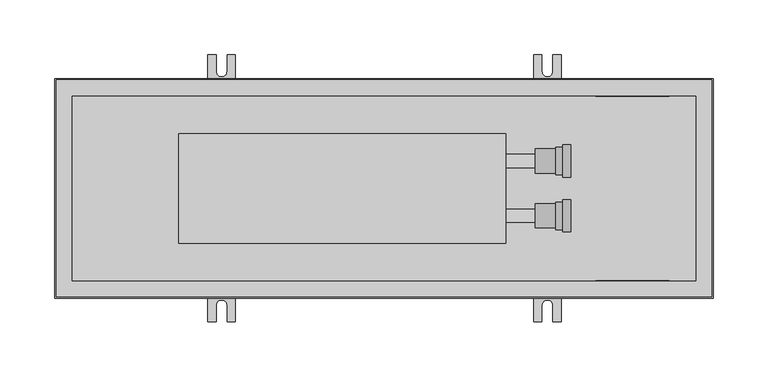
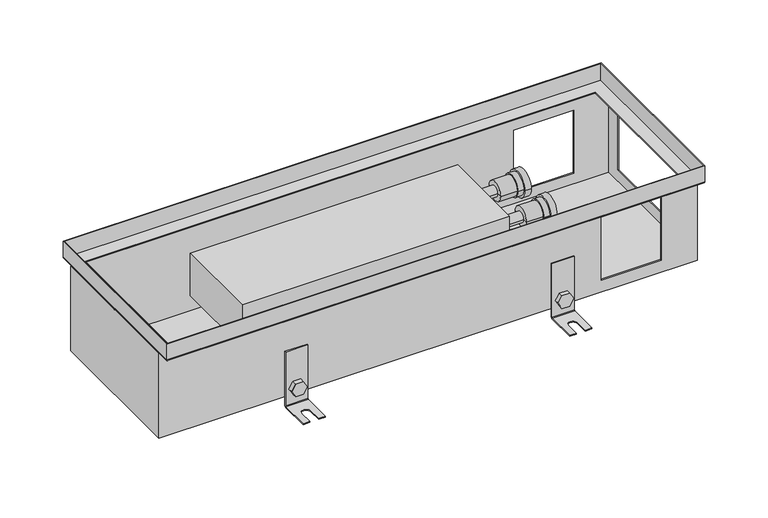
"""IFC4 building model written with IfcOpenShell, lengths in millimetres: proxy geometry, TECHNO_Конвектор встраиваемый_Usual_KVZ-200_85-105-120 : KVZ 200-120."""

from ifc_helpers import new_model, si_unit, point, frame, frame_2d, origin, place, context, project, spatial, polyline, circle_curve, ellipse_curve, trimmed, segment, composite_curve, outline, extrude, faceted_brep, source, transform, mapped, element, save
from ifc_brep_helpers import plane_surface, cylinder_surface, revolved_surface, advanced_brep


def mechanical_equipment_2bb92c4f(model_context):
    return source(origin(), model_context, "Body", "SolidModel", [
        extrude(outline(composite_curve([segment(trimmed(circle_curve(frame_2d((-110.5, 449.0)), 7.5), [point((-110.5, 441.5))], [point((-110.5, 456.5))], False, "CARTESIAN"), True, "CONTINUOUS"), segment(trimmed(circle_curve(frame_2d((-110.5, 449.0)), 7.5), [point((-110.5, 456.5))], [point((-110.5, 441.5))], False, "CARTESIAN"), True, "CONTINUOUS")], self_intersect=False)), frame((0.0, 85.2, 0.0), z_axis=(0.0, 1.0, 0.0), x_axis=(0.0, 0.0, 1.0)), (0.0, 0.0, 1.0), 1.5),
        extrude(outline(polyline([(-110.5, 440.339746), (-118.0, 444.669873), (-118.0, 453.330127), (-110.5, 457.660254), (-103.0, 453.330127), (-103.0, 444.669873), (-110.5, 440.339746)])), frame((0.0, 87.9, 0.0), z_axis=(0.0, 1.0, 0.0), x_axis=(0.0, 0.0, 1.0)), (0.0, 0.0, 1.0), 5.1),
        advanced_brep(
        [(461.5, 87.9, -65.5), (461.5, 86.7, -65.5), (461.5, 86.7, -128.5), (461.5, 88.7, -130.5), (461.5, 121.7, -130.5), (461.5, 121.7, -129.3), (461.5, 88.7, -129.3), (461.5, 87.9, -128.5), (436.5, 87.9, -65.5), (436.5, 87.9, -128.5), (436.5, 88.7, -129.3), (436.5, 121.7, -129.3), (436.5, 121.7, -130.5), (436.5, 88.7, -130.5), (436.5, 86.7, -128.5), (436.5, 86.7, -65.5), (454.0, 121.7, -129.3), (454.0, 106.7, -129.3), (444.0, 106.7, -129.3), (444.0, 121.7, -129.3), (444.0, 121.7, -130.5), (454.0, 121.7, -130.5), (444.0, 106.7, -130.5), (454.0, 106.7, -130.5)],
        [
            (0, 1),
            (1, 2),
            (2, 3, circle_curve(frame((461.5, 88.7, -128.5), z_axis=(1.0, 0.0, 0.0), x_axis=(0.0, 1.0, 0.0)), 2.0)),
            (3, 4),
            (4, 5),
            (5, 6),
            (6, 7, circle_curve(frame((461.5, 88.7, -128.5), z_axis=(-1.0, 0.0, 0.0), x_axis=(0.0, 1.0, 0.0)), 0.8)),
            (7, 0),
            (8, 9),
            (9, 10, circle_curve(frame((436.5, 88.7, -128.5), z_axis=(1.0, 0.0, 0.0), x_axis=(0.0, 1.0, 0.0)), 0.8)),
            (10, 11),
            (11, 12),
            (12, 13),
            (13, 14, circle_curve(frame((436.5, 88.7, -128.5), z_axis=(-1.0, 0.0, 0.0), x_axis=(0.0, 1.0, 0.0)), 2.0)),
            (14, 15),
            (15, 8),
            (7, 9),
            (8, 0),
            (6, 10),
            (5, 16),
            (16, 17),
            (17, 18, circle_curve(frame((449.0, 106.7, -129.3), z_axis=(0.0, 0.0, -1.0), x_axis=(1.0, 0.0, 0.0)), 5.0)),
            (18, 19),
            (19, 11),
            (19, 20),
            (20, 12),
            (4, 21),
            (21, 16),
            (3, 13),
            (20, 22),
            (22, 23, circle_curve(frame((449.0, 106.7, -130.5), z_axis=(0.0, 0.0, 1.0), x_axis=(1.0, 0.0, 0.0)), 5.0)),
            (23, 21),
            (2, 14),
            (1, 15),
            (18, 22),
            (23, 17),
        ],
        [
            plane_surface(frame((461.5, 87.9, -65.5), z_axis=(1.0, 0.0, 0.0), x_axis=(0.0, 0.0, -1.0))),
            plane_surface(frame((436.5, 87.9, -65.5), z_axis=(-1.0, 0.0, 0.0), x_axis=(0.0, 0.0, 1.0))),
            plane_surface(frame((461.5, 87.9, -65.5), z_axis=(0.0, 1.0, 0.0), x_axis=(-1.0, 0.0, 0.0))),
            revolved_surface(polyline([(436.5, 89.5, -128.5), (461.5, 89.5, -128.5)]), (436.5, 88.7, -128.5), (-1.0, 0.0, 0.0)),
            plane_surface(frame((461.5, 88.7, -129.3), z_axis=(0.0, 0.0, 1.0), x_axis=(-1.0, 0.0, 0.0))),
            plane_surface(frame((461.5, 121.7, -129.3), z_axis=(0.0, 1.0, 0.0), x_axis=(-1.0, 0.0, 0.0))),
            plane_surface(frame((461.5, 121.7, -130.5), z_axis=(0.0, 0.0, -1.0), x_axis=(-1.0, 0.0, 0.0))),
            cylinder_surface(frame((436.5, 88.7, -128.5), z_axis=(1.0, 0.0, 0.0), x_axis=(0.0, 1.0, 0.0)), 2.0),
            plane_surface(frame((461.5, 86.7, -128.5), z_axis=(0.0, -1.0, 0.0), x_axis=(-1.0, 0.0, 0.0))),
            plane_surface(frame((461.5, 86.7, -65.5), z_axis=(0.0, 0.0, 1.0), x_axis=(-1.0, 0.0, 0.0))),
            plane_surface(frame((444.0, 106.7, -129.3), z_axis=(1.0, 0.0, 0.0), x_axis=(0.0, 0.0, -1.0))),
            plane_surface(frame((454.0, 121.7, -129.3), z_axis=(-1.0, 0.0, 0.0), x_axis=(0.0, 0.0, -1.0))),
            revolved_surface(polyline([(454.0, 106.7, -129.3), (454.0, 106.7, -130.5)]), (449.0, 106.7, -130.5), (0.0, 0.0, 1.0)),
        ],
        [
            (0, [[1, 2, 3, 4, 5, 6, 7, 8]]),
            (1, [[9, 10, 11, 12, 13, 14, 15, 16]]),
            (2, [[17, -9, 18, -8]]),
            (3, [[19, -10, -17, -7]]),
            (4, [[20, 21, 22, 23, 24, -11, -19, -6]]),
            (5, [[-24, 25, 26, -12]]),
            (5, [[27, 28, -20, -5]]),
            (6, [[29, -13, -26, 30, 31, 32, -27, -4]]),
            (7, [[33, -14, -29, -3]]),
            (8, [[34, -15, -33, -2]]),
            (9, [[-18, -16, -34, -1]]),
            (10, [[-30, -25, -23, 35]]),
            (11, [[-21, -28, -32, 36]]),
            (12, [[-22, -36, -31, -35]]),
        ],
    ),
        extrude(outline(composite_curve([segment(trimmed(circle_curve(frame_2d((-110.5, 449.0)), 7.5), [point((-110.5, 441.5))], [point((-110.5, 456.5))], False, "CARTESIAN"), True, "CONTINUOUS"), segment(trimmed(circle_curve(frame_2d((-110.5, 449.0)), 7.5), [point((-110.5, 456.5))], [point((-110.5, 441.5))], False, "CARTESIAN"), True, "CONTINUOUS")], self_intersect=False)), frame((0.0, -86.7, 0.0), z_axis=(0.0, 1.0, 0.0), x_axis=(0.0, 0.0, 1.0)), (0.0, 0.0, 1.0), 1.5),
        extrude(outline(polyline([(-110.5, 440.339746), (-118.0, 444.669873), (-118.0, 453.330127), (-110.5, 457.660254), (-103.0, 453.330127), (-103.0, 444.669873), (-110.5, 440.339746)])), frame((0.0, -93.0, 0.0), z_axis=(0.0, 1.0, 0.0), x_axis=(0.0, 0.0, 1.0)), (0.0, 0.0, 1.0), 5.1),
        advanced_brep(
        [(461.5, -87.9, -65.5), (461.5, -87.9, -128.5), (461.5, -88.7, -129.3), (461.5, -121.7, -129.3), (461.5, -121.7, -130.5), (461.5, -88.7, -130.5), (461.5, -86.7, -128.5), (461.5, -86.7, -65.5), (436.5, -87.9, -65.5), (436.5, -86.7, -65.5), (436.5, -86.7, -128.5), (436.5, -88.7, -130.5), (436.5, -121.7, -130.5), (436.5, -121.7, -129.3), (436.5, -88.7, -129.3), (436.5, -87.9, -128.5), (444.0, -121.7, -129.3), (444.0, -106.7, -129.3), (454.0, -106.7, -129.3), (454.0, -121.7, -129.3), (454.0, -121.7, -130.5), (444.0, -121.7, -130.5), (454.0, -106.7, -130.5), (444.0, -106.7, -130.5)],
        [
            (0, 1),
            (1, 2, circle_curve(frame((461.5, -88.7, -128.5), z_axis=(-1.0, 0.0, 0.0), x_axis=(0.0, -1.0, 0.0)), 0.8)),
            (2, 3),
            (3, 4),
            (4, 5),
            (5, 6, circle_curve(frame((461.5, -88.7, -128.5), z_axis=(1.0, 0.0, 0.0), x_axis=(0.0, -1.0, 0.0)), 2.0)),
            (6, 7),
            (7, 0),
            (8, 9),
            (9, 10),
            (10, 11, circle_curve(frame((436.5, -88.7, -128.5), z_axis=(-1.0, 0.0, 0.0), x_axis=(0.0, -1.0, 0.0)), 2.0)),
            (11, 12),
            (12, 13),
            (13, 14),
            (14, 15, circle_curve(frame((436.5, -88.7, -128.5), z_axis=(1.0, 0.0, 0.0), x_axis=(0.0, -1.0, 0.0)), 0.8)),
            (15, 8),
            (0, 8),
            (15, 1),
            (14, 2),
            (13, 16),
            (16, 17),
            (17, 18, circle_curve(frame((449.0, -106.7, -129.3), z_axis=(0.0, 0.0, -1.0), x_axis=(1.0, 0.0, 0.0)), 5.0)),
            (18, 19),
            (19, 3),
            (19, 20),
            (20, 4),
            (12, 21),
            (21, 16),
            (20, 22),
            (22, 23, circle_curve(frame((449.0, -106.7, -130.5), z_axis=(0.0, 0.0, 1.0), x_axis=(1.0, 0.0, 0.0)), 5.0)),
            (23, 21),
            (11, 5),
            (10, 6),
            (9, 7),
            (23, 17),
            (18, 22),
        ],
        [
            plane_surface(frame((461.5, -87.9, -65.5), z_axis=(1.0, 0.0, 0.0), x_axis=(0.0, 0.0, -1.0))),
            plane_surface(frame((436.5, -87.9, -65.5), z_axis=(-1.0, 0.0, 0.0), x_axis=(0.0, 0.0, 1.0))),
            plane_surface(frame((461.5, -87.9, -65.5), z_axis=(0.0, -1.0, 0.0), x_axis=(-1.0, 0.0, 0.0))),
            revolved_surface(polyline([(436.5, -89.5, -128.5), (461.5, -89.5, -128.5)]), (436.5, -88.7, -128.5), (-1.0, 0.0, 0.0)),
            plane_surface(frame((461.5, -88.7, -129.3), z_axis=(0.0, 0.0, 1.0), x_axis=(-1.0, 0.0, 0.0))),
            plane_surface(frame((461.5, -121.7, -129.3), z_axis=(0.0, -1.0, 0.0), x_axis=(-1.0, 0.0, 0.0))),
            plane_surface(frame((461.5, -121.7, -130.5), z_axis=(0.0, 0.0, -1.0), x_axis=(-1.0, 0.0, 0.0))),
            cylinder_surface(frame((436.5, -88.7, -128.5), z_axis=(1.0, 0.0, 0.0), x_axis=(0.0, -1.0, 0.0)), 2.0),
            plane_surface(frame((461.5, -86.7, -128.5), z_axis=(0.0, 1.0, 0.0), x_axis=(-1.0, 0.0, 0.0))),
            plane_surface(frame((461.5, -86.7, -65.5), z_axis=(0.0, 0.0, 1.0), x_axis=(-1.0, 0.0, 0.0))),
            plane_surface(frame((444.0, -106.7, -129.3), z_axis=(1.0, 0.0, 0.0), x_axis=(0.0, 0.0, -1.0))),
            plane_surface(frame((454.0, -121.7, -129.3), z_axis=(-1.0, 0.0, 0.0), x_axis=(0.0, 0.0, -1.0))),
            revolved_surface(polyline([(454.0, -106.7, -129.3), (454.0, -106.7, -130.5)]), (449.0, -106.7, -130.5), (0.0, 0.0, 1.0)),
        ],
        [
            (0, [[1, 2, 3, 4, 5, 6, 7, 8]]),
            (1, [[9, 10, 11, 12, 13, 14, 15, 16]]),
            (2, [[-1, 17, -16, 18]]),
            (3, [[-2, -18, -15, 19]]),
            (4, [[-3, -19, -14, 20, 21, 22, 23, 24]]),
            (5, [[-4, -24, 25, 26]]),
            (5, [[-13, 27, 28, -20]]),
            (6, [[-5, -26, 29, 30, 31, -27, -12, 32]]),
            (7, [[-6, -32, -11, 33]]),
            (8, [[-7, -33, -10, 34]]),
            (9, [[-8, -34, -9, -17]]),
            (10, [[35, -21, -28, -31]]),
            (11, [[36, -29, -25, -23]]),
            (12, [[-35, -30, -36, -22]]),
        ],
    ),
        extrude(outline(composite_curve([segment(trimmed(circle_curve(frame_2d((-110.5, 152.0)), 7.5), [point((-110.5, 144.5))], [point((-110.5, 159.5))], False, "CARTESIAN"), True, "CONTINUOUS"), segment(trimmed(circle_curve(frame_2d((-110.5, 152.0)), 7.5), [point((-110.5, 159.5))], [point((-110.5, 144.5))], False, "CARTESIAN"), True, "CONTINUOUS")], self_intersect=False)), frame((0.0, 85.2, 0.0), z_axis=(0.0, 1.0, 0.0), x_axis=(0.0, 0.0, 1.0)), (0.0, 0.0, 1.0), 1.5),
        extrude(outline(polyline([(-110.5, 143.339746), (-118.0, 147.669873), (-118.0, 156.330127), (-110.5, 160.660254), (-103.0, 156.330127), (-103.0, 147.669873), (-110.5, 143.339746)])), frame((0.0, 87.9, 0.0), z_axis=(0.0, 1.0, 0.0), x_axis=(0.0, 0.0, 1.0)), (0.0, 0.0, 1.0), 5.1),
        advanced_brep(
        [(164.5, 87.9, -65.5), (164.5, 86.7, -65.5), (164.5, 86.7, -128.5), (164.5, 88.7, -130.5), (164.5, 121.7, -130.5), (164.5, 121.7, -129.3), (164.5, 88.7, -129.3), (164.5, 87.9, -128.5), (139.5, 87.9, -65.5), (139.5, 87.9, -128.5), (139.5, 88.7, -129.3), (139.5, 121.7, -129.3), (139.5, 121.7, -130.5), (139.5, 88.7, -130.5), (139.5, 86.7, -128.5), (139.5, 86.7, -65.5), (157.0, 121.7, -129.3), (157.0, 106.7, -129.3), (147.0, 106.7, -129.3), (147.0, 121.7, -129.3), (147.0, 121.7, -130.5), (157.0, 121.7, -130.5), (147.0, 106.7, -130.5), (157.0, 106.7, -130.5)],
        [
            (0, 1),
            (1, 2),
            (2, 3, circle_curve(frame((164.5, 88.7, -128.5), z_axis=(1.0, 0.0, 0.0), x_axis=(0.0, 1.0, 0.0)), 2.0)),
            (3, 4),
            (4, 5),
            (5, 6),
            (6, 7, circle_curve(frame((164.5, 88.7, -128.5), z_axis=(-1.0, 0.0, 0.0), x_axis=(0.0, 1.0, 0.0)), 0.8)),
            (7, 0),
            (8, 9),
            (9, 10, circle_curve(frame((139.5, 88.7, -128.5), z_axis=(1.0, 0.0, 0.0), x_axis=(0.0, 1.0, 0.0)), 0.8)),
            (10, 11),
            (11, 12),
            (12, 13),
            (13, 14, circle_curve(frame((139.5, 88.7, -128.5), z_axis=(-1.0, 0.0, 0.0), x_axis=(0.0, 1.0, 0.0)), 2.0)),
            (14, 15),
            (15, 8),
            (7, 9),
            (8, 0),
            (6, 10),
            (5, 16),
            (16, 17),
            (17, 18, circle_curve(frame((152.0, 106.7, -129.3), z_axis=(0.0, 0.0, -1.0), x_axis=(1.0, 0.0, 0.0)), 5.0)),
            (18, 19),
            (19, 11),
            (19, 20),
            (20, 12),
            (4, 21),
            (21, 16),
            (3, 13),
            (20, 22),
            (22, 23, circle_curve(frame((152.0, 106.7, -130.5), z_axis=(0.0, 0.0, 1.0), x_axis=(1.0, 0.0, 0.0)), 5.0)),
            (23, 21),
            (2, 14),
            (1, 15),
            (18, 22),
            (23, 17),
        ],
        [
            plane_surface(frame((164.5, 87.9, -65.5), z_axis=(1.0, 0.0, 0.0), x_axis=(0.0, 0.0, -1.0))),
            plane_surface(frame((139.5, 87.9, -65.5), z_axis=(-1.0, 0.0, 0.0), x_axis=(0.0, 0.0, 1.0))),
            plane_surface(frame((164.5, 87.9, -65.5), z_axis=(0.0, 1.0, 0.0), x_axis=(-1.0, 0.0, 0.0))),
            revolved_surface(polyline([(139.5, 89.5, -128.5), (164.5, 89.5, -128.5)]), (139.5, 88.7, -128.5), (-1.0, 0.0, 0.0)),
            plane_surface(frame((164.5, 88.7, -129.3), z_axis=(0.0, 0.0, 1.0), x_axis=(-1.0, 0.0, 0.0))),
            plane_surface(frame((164.5, 121.7, -129.3), z_axis=(0.0, 1.0, 0.0), x_axis=(-1.0, 0.0, 0.0))),
            plane_surface(frame((164.5, 121.7, -130.5), z_axis=(0.0, 0.0, -1.0), x_axis=(-1.0, 0.0, 0.0))),
            cylinder_surface(frame((139.5, 88.7, -128.5), z_axis=(1.0, 0.0, 0.0), x_axis=(0.0, 1.0, 0.0)), 2.0),
            plane_surface(frame((164.5, 86.7, -128.5), z_axis=(0.0, -1.0, 0.0), x_axis=(-1.0, 0.0, 0.0))),
            plane_surface(frame((164.5, 86.7, -65.5), z_axis=(0.0, 0.0, 1.0), x_axis=(-1.0, 0.0, 0.0))),
            plane_surface(frame((147.0, 106.7, -129.3), z_axis=(1.0, 0.0, 0.0), x_axis=(0.0, 0.0, -1.0))),
            plane_surface(frame((157.0, 121.7, -129.3), z_axis=(-1.0, 0.0, 0.0), x_axis=(0.0, 0.0, -1.0))),
            revolved_surface(polyline([(157.0, 106.7, -129.3), (157.0, 106.7, -130.5)]), (152.0, 106.7, -130.5), (0.0, 0.0, 1.0)),
        ],
        [
            (0, [[1, 2, 3, 4, 5, 6, 7, 8]]),
            (1, [[9, 10, 11, 12, 13, 14, 15, 16]]),
            (2, [[17, -9, 18, -8]]),
            (3, [[19, -10, -17, -7]]),
            (4, [[20, 21, 22, 23, 24, -11, -19, -6]]),
            (5, [[-24, 25, 26, -12]]),
            (5, [[27, 28, -20, -5]]),
            (6, [[29, -13, -26, 30, 31, 32, -27, -4]]),
            (7, [[33, -14, -29, -3]]),
            (8, [[34, -15, -33, -2]]),
            (9, [[-18, -16, -34, -1]]),
            (10, [[-30, -25, -23, 35]]),
            (11, [[-21, -28, -32, 36]]),
            (12, [[-22, -36, -31, -35]]),
        ],
    ),
        extrude(outline(composite_curve([segment(trimmed(circle_curve(frame_2d((-110.5, 152.0)), 7.5), [point((-110.5, 144.5))], [point((-110.5, 159.5))], False, "CARTESIAN"), True, "CONTINUOUS"), segment(trimmed(circle_curve(frame_2d((-110.5, 152.0)), 7.5), [point((-110.5, 159.5))], [point((-110.5, 144.5))], False, "CARTESIAN"), True, "CONTINUOUS")], self_intersect=False)), frame((0.0, -86.7, 0.0), z_axis=(0.0, 1.0, 0.0), x_axis=(0.0, 0.0, 1.0)), (0.0, 0.0, 1.0), 1.5),
        extrude(outline(polyline([(-110.5, 143.339746), (-118.0, 147.669873), (-118.0, 156.330127), (-110.5, 160.660254), (-103.0, 156.330127), (-103.0, 147.669873), (-110.5, 143.339746)])), frame((0.0, -93.0, 0.0), z_axis=(0.0, 1.0, 0.0), x_axis=(0.0, 0.0, 1.0)), (0.0, 0.0, 1.0), 5.1),
        advanced_brep(
        [(164.5, -87.9, -65.5), (164.5, -87.9, -128.5), (164.5, -88.7, -129.3), (164.5, -121.7, -129.3), (164.5, -121.7, -130.5), (164.5, -88.7, -130.5), (164.5, -86.7, -128.5), (164.5, -86.7, -65.5), (139.5, -87.9, -65.5), (139.5, -86.7, -65.5), (139.5, -86.7, -128.5), (139.5, -88.7, -130.5), (139.5, -121.7, -130.5), (139.5, -121.7, -129.3), (139.5, -88.7, -129.3), (139.5, -87.9, -128.5), (147.0, -121.7, -129.3), (147.0, -106.7, -129.3), (157.0, -106.7, -129.3), (157.0, -121.7, -129.3), (157.0, -121.7, -130.5), (147.0, -121.7, -130.5), (157.0, -106.7, -130.5), (147.0, -106.7, -130.5)],
        [
            (0, 1),
            (1, 2, circle_curve(frame((164.5, -88.7, -128.5), z_axis=(-1.0, 0.0, 0.0), x_axis=(0.0, -1.0, 0.0)), 0.8)),
            (2, 3),
            (3, 4),
            (4, 5),
            (5, 6, circle_curve(frame((164.5, -88.7, -128.5), z_axis=(1.0, 0.0, 0.0), x_axis=(0.0, -1.0, 0.0)), 2.0)),
            (6, 7),
            (7, 0),
            (8, 9),
            (9, 10),
            (10, 11, circle_curve(frame((139.5, -88.7, -128.5), z_axis=(-1.0, 0.0, 0.0), x_axis=(0.0, -1.0, 0.0)), 2.0)),
            (11, 12),
            (12, 13),
            (13, 14),
            (14, 15, circle_curve(frame((139.5, -88.7, -128.5), z_axis=(1.0, 0.0, 0.0), x_axis=(0.0, -1.0, 0.0)), 0.8)),
            (15, 8),
            (0, 8),
            (15, 1),
            (14, 2),
            (13, 16),
            (16, 17),
            (17, 18, circle_curve(frame((152.0, -106.7, -129.3), z_axis=(0.0, 0.0, -1.0), x_axis=(1.0, 0.0, 0.0)), 5.0)),
            (18, 19),
            (19, 3),
            (19, 20),
            (20, 4),
            (12, 21),
            (21, 16),
            (20, 22),
            (22, 23, circle_curve(frame((152.0, -106.7, -130.5), z_axis=(0.0, 0.0, 1.0), x_axis=(1.0, 0.0, 0.0)), 5.0)),
            (23, 21),
            (11, 5),
            (10, 6),
            (9, 7),
            (23, 17),
            (18, 22),
        ],
        [
            plane_surface(frame((164.5, -87.9, -65.5), z_axis=(1.0, 0.0, 0.0), x_axis=(0.0, 0.0, -1.0))),
            plane_surface(frame((139.5, -87.9, -65.5), z_axis=(-1.0, 0.0, 0.0), x_axis=(0.0, 0.0, 1.0))),
            plane_surface(frame((164.5, -87.9, -65.5), z_axis=(0.0, -1.0, 0.0), x_axis=(-1.0, 0.0, 0.0))),
            revolved_surface(polyline([(139.5, -89.5, -128.5), (164.5, -89.5, -128.5)]), (139.5, -88.7, -128.5), (-1.0, 0.0, 0.0)),
            plane_surface(frame((164.5, -88.7, -129.3), z_axis=(0.0, 0.0, 1.0), x_axis=(-1.0, 0.0, 0.0))),
            plane_surface(frame((164.5, -121.7, -129.3), z_axis=(0.0, -1.0, 0.0), x_axis=(-1.0, 0.0, 0.0))),
            plane_surface(frame((164.5, -121.7, -130.5), z_axis=(0.0, 0.0, -1.0), x_axis=(-1.0, 0.0, 0.0))),
            cylinder_surface(frame((139.5, -88.7, -128.5), z_axis=(1.0, 0.0, 0.0), x_axis=(0.0, -1.0, 0.0)), 2.0),
            plane_surface(frame((164.5, -86.7, -128.5), z_axis=(0.0, 1.0, 0.0), x_axis=(-1.0, 0.0, 0.0))),
            plane_surface(frame((164.5, -86.7, -65.5), z_axis=(0.0, 0.0, 1.0), x_axis=(-1.0, 0.0, 0.0))),
            plane_surface(frame((147.0, -106.7, -129.3), z_axis=(1.0, 0.0, 0.0), x_axis=(0.0, 0.0, -1.0))),
            plane_surface(frame((157.0, -121.7, -129.3), z_axis=(-1.0, 0.0, 0.0), x_axis=(0.0, 0.0, -1.0))),
            revolved_surface(polyline([(157.0, -106.7, -129.3), (157.0, -106.7, -130.5)]), (152.0, -106.7, -130.5), (0.0, 0.0, 1.0)),
        ],
        [
            (0, [[1, 2, 3, 4, 5, 6, 7, 8]]),
            (1, [[9, 10, 11, 12, 13, 14, 15, 16]]),
            (2, [[-1, 17, -16, 18]]),
            (3, [[-2, -18, -15, 19]]),
            (4, [[-3, -19, -14, 20, 21, 22, 23, 24]]),
            (5, [[-4, -24, 25, 26]]),
            (5, [[-13, 27, 28, -20]]),
            (6, [[-5, -26, 29, 30, 31, -27, -12, 32]]),
            (7, [[-6, -32, -11, 33]]),
            (8, [[-7, -33, -10, 34]]),
            (9, [[-8, -34, -9, -17]]),
            (10, [[35, -21, -28, -31]]),
            (11, [[36, -29, -25, -23]]),
            (12, [[-35, -30, -36, -22]]),
        ],
    ),
        extrude(outline(polyline([(411.0, 50.0), (411.0, -50.0), (113.0, -50.0), (113.0, 50.0), (411.0, 50.0)])), frame((0.0, 0.0, -73.5), z_axis=(0.0, 0.0, 1.0), x_axis=(1.0, 0.0, 0.0)), (0.0, 0.0, 1.0), 50.0),
        advanced_brep(
        [(438.0, 25.0, -48.5), (438.0, 36.0, -48.5), (438.0, 14.0, -48.5), (456.5, 36.0, -48.5), (456.5, 14.0, -48.5), (456.5, 37.5, -48.5), (456.5, 12.5, -48.5), (463.0, 37.5, -48.5), (463.0, 12.5, -48.5), (463.0, 39.7, -48.5), (463.0, 10.3, -48.5), (470.0, 39.7, -48.5), (470.0, 10.3, -48.5), (470.0, 25.0, -48.5)],
        [
            (0, 1),
            (1, 2, circle_curve(frame((438.0, 25.0, -48.5), z_axis=(-1.0, 0.0, 0.0), x_axis=(0.0, 1.0, 0.0)), 11.0)),
            (2, 0),
            (2, 1, circle_curve(frame((438.0, 25.0, -48.5), z_axis=(-1.0, 0.0, 0.0), x_axis=(0.0, 1.0, 0.0)), 11.0)),
            (1, 3),
            (3, 4, circle_curve(frame((456.5, 25.0, -48.5), z_axis=(-1.0, 0.0, 0.0), x_axis=(0.0, 1.0, 0.0)), 11.0)),
            (4, 2),
            (4, 3, circle_curve(frame((456.5, 25.0, -48.5), z_axis=(-1.0, 0.0, 0.0), x_axis=(0.0, 1.0, 0.0)), 11.0)),
            (3, 5),
            (5, 6, circle_curve(frame((456.5, 25.0, -48.5), z_axis=(-1.0, 0.0, 0.0), x_axis=(0.0, 1.0, 0.0)), 12.5)),
            (6, 4),
            (6, 5, circle_curve(frame((456.5, 25.0, -48.5), z_axis=(-1.0, 0.0, 0.0), x_axis=(0.0, 1.0, 0.0)), 12.5)),
            (5, 7),
            (7, 8, circle_curve(frame((463.0, 25.0, -48.5), z_axis=(-1.0, 0.0, 0.0), x_axis=(0.0, 1.0, 0.0)), 12.5)),
            (8, 6),
            (8, 7, circle_curve(frame((463.0, 25.0, -48.5), z_axis=(-1.0, 0.0, 0.0), x_axis=(0.0, 1.0, 0.0)), 12.5)),
            (7, 9),
            (9, 10, circle_curve(frame((463.0, 25.0, -48.5), z_axis=(-1.0, 0.0, 0.0), x_axis=(0.0, 1.0, 0.0)), 14.7)),
            (10, 8),
            (10, 9, circle_curve(frame((463.0, 25.0, -48.5), z_axis=(-1.0, 0.0, 0.0), x_axis=(0.0, 1.0, 0.0)), 14.7)),
            (9, 11),
            (11, 12, circle_curve(frame((470.0, 25.0, -48.5), z_axis=(-1.0, 0.0, 0.0), x_axis=(0.0, 1.0, 0.0)), 14.7)),
            (12, 10),
            (12, 11, circle_curve(frame((470.0, 25.0, -48.5), z_axis=(-1.0, 0.0, 0.0), x_axis=(0.0, 1.0, 0.0)), 14.7)),
            (11, 13),
            (13, 12),
        ],
        [
            plane_surface(frame((438.0, 25.0, -48.5), z_axis=(-1.0, 0.0, 0.0), x_axis=(0.0, 1.0, 0.0))),
            cylinder_surface(frame((492.0, 25.0, -48.5), z_axis=(-1.0, 0.0, 0.0), x_axis=(0.0, 1.0, 0.0)), 11.0),
            plane_surface(frame((456.5, 25.0, -48.5), z_axis=(-1.0, 0.0, 0.0), x_axis=(0.0, 1.0, 0.0))),
            cylinder_surface(frame((492.0, 25.0, -48.5), z_axis=(-1.0, 0.0, 0.0), x_axis=(0.0, 1.0, 0.0)), 12.5),
            plane_surface(frame((463.0, 25.0, -48.5), z_axis=(-1.0, 0.0, 0.0), x_axis=(0.0, 1.0, 0.0))),
            cylinder_surface(frame((492.0, 25.0, -48.5), z_axis=(-1.0, 0.0, 0.0), x_axis=(0.0, 1.0, 0.0)), 14.7),
            plane_surface(frame((470.0, 25.0, -48.5), z_axis=(1.0, 0.0, 0.0), x_axis=(0.0, 1.0, 0.0))),
        ],
        [
            (0, [[1, 2, 3]]),
            (0, [[-3, 4, -1]]),
            (1, [[-2, 5, 6, 7]]),
            (1, [[-4, -7, 8, -5]]),
            (2, [[-6, 9, 10, 11]]),
            (2, [[-8, -11, 12, -9]]),
            (3, [[-10, 13, 14, 15]]),
            (3, [[-12, -15, 16, -13]]),
            (4, [[-14, 17, 18, 19]]),
            (4, [[-16, -19, 20, -17]]),
            (5, [[-18, 21, 22, 23]]),
            (5, [[-20, -23, 24, -21]]),
            (6, [[-22, 25, 26]]),
            (6, [[-24, -26, -25]]),
        ],
    ),
        advanced_brep(
        [(438.0, -25.0, -48.5), (438.0, -14.0, -48.5), (438.0, -36.0, -48.5), (456.5, -14.0, -48.5), (456.5, -36.0, -48.5), (456.5, -12.5, -48.5), (456.5, -37.5, -48.5), (463.0, -12.5, -48.5), (463.0, -37.5, -48.5), (463.0, -10.3, -48.5), (463.0, -39.7, -48.5), (470.0, -10.3, -48.5), (470.0, -39.7, -48.5), (470.0, -25.0, -48.5)],
        [
            (0, 1),
            (1, 2, circle_curve(frame((438.0, -25.0, -48.5), z_axis=(-1.0, 0.0, 0.0), x_axis=(0.0, 1.0, 0.0)), 11.0)),
            (2, 0),
            (2, 1, circle_curve(frame((438.0, -25.0, -48.5), z_axis=(-1.0, 0.0, 0.0), x_axis=(0.0, 1.0, 0.0)), 11.0)),
            (1, 3),
            (3, 4, circle_curve(frame((456.5, -25.0, -48.5), z_axis=(-1.0, 0.0, 0.0), x_axis=(0.0, 1.0, 0.0)), 11.0)),
            (4, 2),
            (4, 3, circle_curve(frame((456.5, -25.0, -48.5), z_axis=(-1.0, 0.0, 0.0), x_axis=(0.0, 1.0, 0.0)), 11.0)),
            (3, 5),
            (5, 6, circle_curve(frame((456.5, -25.0, -48.5), z_axis=(-1.0, 0.0, 0.0), x_axis=(0.0, 1.0, 0.0)), 12.5)),
            (6, 4),
            (6, 5, circle_curve(frame((456.5, -25.0, -48.5), z_axis=(-1.0, 0.0, 0.0), x_axis=(0.0, 1.0, 0.0)), 12.5)),
            (5, 7),
            (7, 8, circle_curve(frame((463.0, -25.0, -48.5), z_axis=(-1.0, 0.0, 0.0), x_axis=(0.0, 1.0, 0.0)), 12.5)),
            (8, 6),
            (8, 7, circle_curve(frame((463.0, -25.0, -48.5), z_axis=(-1.0, 0.0, 0.0), x_axis=(0.0, 1.0, 0.0)), 12.5)),
            (7, 9),
            (9, 10, circle_curve(frame((463.0, -25.0, -48.5), z_axis=(-1.0, 0.0, 0.0), x_axis=(0.0, 1.0, 0.0)), 14.7)),
            (10, 8),
            (10, 9, circle_curve(frame((463.0, -25.0, -48.5), z_axis=(-1.0, 0.0, 0.0), x_axis=(0.0, 1.0, 0.0)), 14.7)),
            (9, 11),
            (11, 12, circle_curve(frame((470.0, -25.0, -48.5), z_axis=(-1.0, 0.0, 0.0), x_axis=(0.0, 1.0, 0.0)), 14.7)),
            (12, 10),
            (12, 11, circle_curve(frame((470.0, -25.0, -48.5), z_axis=(-1.0, 0.0, 0.0), x_axis=(0.0, 1.0, 0.0)), 14.7)),
            (11, 13),
            (13, 12),
        ],
        [
            plane_surface(frame((438.0, -25.0, -48.5), z_axis=(-1.0, 0.0, 0.0), x_axis=(0.0, 1.0, 0.0))),
            cylinder_surface(frame((492.0, -25.0, -48.5), z_axis=(-1.0, 0.0, 0.0), x_axis=(0.0, 1.0, 0.0)), 11.0),
            plane_surface(frame((456.5, -25.0, -48.5), z_axis=(-1.0, 0.0, 0.0), x_axis=(0.0, 1.0, 0.0))),
            cylinder_surface(frame((492.0, -25.0, -48.5), z_axis=(-1.0, 0.0, 0.0), x_axis=(0.0, 1.0, 0.0)), 12.5),
            plane_surface(frame((463.0, -25.0, -48.5), z_axis=(-1.0, 0.0, 0.0), x_axis=(0.0, 1.0, 0.0))),
            cylinder_surface(frame((492.0, -25.0, -48.5), z_axis=(-1.0, 0.0, 0.0), x_axis=(0.0, 1.0, 0.0)), 14.7),
            plane_surface(frame((470.0, -25.0, -48.5), z_axis=(1.0, 0.0, 0.0), x_axis=(0.0, 1.0, 0.0))),
        ],
        [
            (0, [[1, 2, 3]]),
            (0, [[-3, 4, -1]]),
            (1, [[-2, 5, 6, 7]]),
            (1, [[-4, -7, 8, -5]]),
            (2, [[-6, 9, 10, 11]]),
            (2, [[-8, -11, 12, -9]]),
            (3, [[-10, 13, 14, 15]]),
            (3, [[-12, -15, 16, -13]]),
            (4, [[-14, 17, 18, 19]]),
            (4, [[-16, -19, 20, -17]]),
            (5, [[-18, 21, 22, 23]]),
            (5, [[-20, -23, 24, -21]]),
            (6, [[-22, 25, 26]]),
            (6, [[-24, -26, -25]]),
        ],
    ),
        extrude(outline(composite_curve([segment(trimmed(circle_curve(frame_2d((25.0, -48.5)), 6.0), [point((19.0, -48.5))], [point((31.0, -48.5))], False, "CARTESIAN"), True, "CONTINUOUS"), segment(trimmed(circle_curve(frame_2d((25.0, -48.5)), 6.0), [point((31.0, -48.5))], [point((19.0, -48.5))], False, "CARTESIAN"), True, "CONTINUOUS")], self_intersect=False)), frame((411.0, 0.0, 0.0), z_axis=(1.0, 0.0, 0.0), x_axis=(0.0, 1.0, 0.0)), (0.0, 0.0, 1.0), 27.0),
        extrude(outline(composite_curve([segment(trimmed(circle_curve(frame_2d((-25.0, -48.5)), 6.0), [point((-31.0, -48.5))], [point((-19.0, -48.5))], False, "CARTESIAN"), True, "CONTINUOUS"), segment(trimmed(circle_curve(frame_2d((-25.0, -48.5)), 6.0), [point((-19.0, -48.5))], [point((-31.0, -48.5))], False, "CARTESIAN"), True, "CONTINUOUS")], self_intersect=False)), frame((411.0, 0.0, 0.0), z_axis=(1.0, 0.0, 0.0), x_axis=(0.0, 1.0, 0.0)), (0.0, 0.0, 1.0), 27.0),
        faceted_brep([(598.8, -84.0, -118.8), (598.8, 84.0, -118.8), (1.2, 84.0, -118.8), (1.2, -84.0, -118.8), (0.0, -85.2, -120.0), (0.0, 85.2, -120.0), (600.0, 85.2, -120.0), (600.0, -85.2, -120.0), (600.0, -85.2, -20.5), (0.0, -85.2, -20.5), (493.0, -85.2, -32.0), (560.0, -85.2, -32.0), (560.0, -85.2, -106.0), (493.0, -85.2, -106.0), (600.0, 85.2, -20.5), (600.0, 66.0, -23.0), (600.0, 66.0, -105.0), (600.0, -66.0, -105.0), (600.0, -66.0, -23.0), (0.0, 85.2, -20.5), (560.0, 85.2, -32.0), (493.0, 85.2, -32.0), (493.0, 85.2, -106.0), (560.0, 85.2, -106.0), (598.8, -84.0, -20.5), (598.8, 84.0, -20.5), (598.8, 66.0, -105.0), (598.8, 66.0, -23.0), (598.8, -66.0, -23.0), (598.8, -66.0, -105.0), (1.2, -84.0, -20.5), (560.0, -84.0, -32.0), (493.0, -84.0, -32.0), (493.0, -84.0, -106.0), (560.0, -84.0, -106.0), (1.2, 84.0, -20.5), (493.0, 84.0, -32.0), (560.0, 84.0, -32.0), (560.0, 84.0, -106.0), (493.0, 84.0, -106.0)], [[[0, 1, 2, 3]], [[4, 5, 6, 7]], [[4, 7, 8, 9], [10, 11, 12, 13]], [[7, 6, 14, 8], [15, 16, 17, 18]], [[6, 5, 19, 14], [20, 21, 22, 23]], [[5, 4, 9, 19]], [[24, 25, 1, 0], [26, 27, 28, 29]], [[30, 24, 0, 3], [31, 32, 33, 34]], [[35, 30, 3, 2]], [[25, 35, 2, 1], [36, 37, 38, 39]], [[8, 14, 19, 9], [25, 24, 30, 35]], [[31, 11, 10, 32]], [[20, 37, 36, 21]], [[32, 10, 13, 33]], [[21, 36, 39, 22]], [[33, 13, 12, 34]], [[22, 39, 38, 23]], [[11, 31, 34, 12]], [[37, 20, 23, 38]], [[15, 27, 26, 16]], [[27, 15, 18, 28]], [[28, 18, 17, 29]], [[16, 26, 29, 17]]]),
        advanced_brep(
        [(584.0, 84.0, -19.3), (584.0, 84.0, -20.5), (584.0, -84.0, -20.5), (584.0, -84.0, -19.3), (598.8, 98.8, 0.0), (598.8, 98.8, -19.3), (598.8, -98.8, -19.3), (598.8, -98.8, 0.0), (600.0, 100.0, -18.5), (600.0, 100.0, 0.0), (600.0, -100.0, 0.0), (600.0, -100.0, -18.5), (16.0, -84.0, -20.5), (16.0, -84.0, -19.3), (1.2, -98.8, -19.3), (1.2, -98.8, 0.0), (0.0, -100.0, 0.0), (0.0, -100.0, -18.5), (16.0, 84.0, -20.5), (16.0, 84.0, -19.3), (1.2, 98.8, -19.3), (1.2, 98.8, 0.0), (0.0, 100.0, 0.0), (0.0, 100.0, -18.5), (598.0, -98.0, -20.5), (2.0, -98.0, -20.5), (2.0, 98.0, -20.5), (598.0, 98.0, -20.5)],
        [
            (0, 1),
            (1, 2),
            (2, 3),
            (3, 0),
            (4, 5),
            (5, 6),
            (6, 7),
            (7, 4),
            (8, 9),
            (9, 10),
            (10, 11),
            (11, 8),
            (2, 12),
            (12, 13),
            (13, 3),
            (6, 14),
            (14, 15),
            (15, 7),
            (10, 16),
            (16, 17),
            (17, 11),
            (12, 18),
            (18, 19),
            (19, 13),
            (14, 20),
            (20, 21),
            (21, 15),
            (16, 22),
            (22, 23),
            (23, 17),
            (24, 25),
            (25, 26),
            (26, 27),
            (27, 24),
            (1, 18),
            (0, 19),
            (5, 20),
            (4, 21),
            (9, 22),
            (8, 23),
            (27, 8, ellipse_curve(frame((598.0, 98.0, -18.5), z_axis=(0.7071067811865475, -0.7071067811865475, 0.0), x_axis=(0.7071067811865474, 0.7071067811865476, 0.0)), 2.8284271, 2.0)),
            (11, 24, ellipse_curve(frame((598.0, -98.0, -18.5), z_axis=(0.7071067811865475, 0.7071067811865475, 0.0), x_axis=(-0.7071067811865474, 0.7071067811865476, 0.0)), 2.8284271, 2.0)),
            (17, 25, ellipse_curve(frame((2.0, -98.0, -18.5), z_axis=(0.7071067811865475, -0.7071067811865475, 0.0), x_axis=(0.7071067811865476, 0.7071067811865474, 0.0)), 2.8284271, 2.0)),
            (23, 26, ellipse_curve(frame((2.0, 98.0, -18.5), z_axis=(-0.7071067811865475, -0.7071067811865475, 0.0), x_axis=(0.7071067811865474, -0.7071067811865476, 0.0)), 2.8284271, 2.0)),
        ],
        [
            plane_surface(frame((584.0, 84.0, -20.5), z_axis=(-1.0, 0.0, 0.0), x_axis=(0.0, -1.0, 0.0))),
            plane_surface(frame((598.8, 98.8, -19.3), z_axis=(-1.0, 0.0, 0.0), x_axis=(0.0, -1.0, 0.0))),
            plane_surface(frame((600.0, 100.0, 0.0), z_axis=(1.0, 0.0, 0.0), x_axis=(0.0, -1.0, 0.0))),
            plane_surface(frame((584.0, -84.0, -20.5), z_axis=(0.0, 1.0, 0.0), x_axis=(-1.0, 0.0, 0.0))),
            plane_surface(frame((598.8, -98.8, -19.3), z_axis=(0.0, 1.0, 0.0), x_axis=(-1.0, 0.0, 0.0))),
            plane_surface(frame((600.0, -100.0, 0.0), z_axis=(0.0, -1.0, 0.0), x_axis=(-1.0, 0.0, 0.0))),
            plane_surface(frame((16.0, -84.0, -20.5), z_axis=(1.0, 0.0, 0.0), x_axis=(0.0, 1.0, 0.0))),
            plane_surface(frame((1.2, -98.8, -19.3), z_axis=(1.0, 0.0, 0.0), x_axis=(0.0, 1.0, 0.0))),
            plane_surface(frame((0.0, -100.0, 0.0), z_axis=(-1.0, 0.0, 0.0), x_axis=(0.0, 1.0, 0.0))),
            plane_surface(frame((2.0, 98.0, -20.5), z_axis=(0.0, 0.0, -1.0), x_axis=(1.0, 0.0, 0.0))),
            plane_surface(frame((16.0, 84.0, -20.5), z_axis=(0.0, -1.0, 0.0), x_axis=(1.0, 0.0, 0.0))),
            plane_surface(frame((16.0, 84.0, -19.3), z_axis=(0.0, 0.0, 1.0), x_axis=(1.0, 0.0, 0.0))),
            plane_surface(frame((1.2, 98.8, -19.3), z_axis=(0.0, -1.0, 0.0), x_axis=(1.0, 0.0, 0.0))),
            plane_surface(frame((1.2, 98.8, 0.0), z_axis=(0.0, 0.0, 1.0), x_axis=(1.0, 0.0, 0.0))),
            plane_surface(frame((0.0, 100.0, 0.0), z_axis=(0.0, 1.0, 0.0), x_axis=(1.0, 0.0, 0.0))),
            cylinder_surface(frame((598.0, 100.0, -18.5), z_axis=(0.0, 1.0, 0.0), x_axis=(1.0, 0.0, 0.0)), 2.0),
            cylinder_surface(frame((600.0, -98.0, -18.5), z_axis=(1.0, 0.0, 0.0), x_axis=(0.0, -1.0, 0.0)), 2.0),
            cylinder_surface(frame((2.0, -100.0, -18.5), z_axis=(0.0, -1.0, 0.0), x_axis=(-1.0, 0.0, 0.0)), 2.0),
            cylinder_surface(frame((0.0, 98.0, -18.5), z_axis=(-1.0, 0.0, 0.0), x_axis=(0.0, 1.0, 0.0)), 2.0),
        ],
        [
            (0, [[1, 2, 3, 4]]),
            (1, [[5, 6, 7, 8]]),
            (2, [[9, 10, 11, 12]]),
            (3, [[-3, 13, 14, 15]]),
            (4, [[-7, 16, 17, 18]]),
            (5, [[-11, 19, 20, 21]]),
            (6, [[-14, 22, 23, 24]]),
            (7, [[-17, 25, 26, 27]]),
            (8, [[-20, 28, 29, 30]]),
            (9, [[31, 32, 33, 34], [35, -22, -13, -2]]),
            (10, [[-23, -35, -1, 36]]),
            (11, [[37, -25, -16, -6], [-15, -24, -36, -4]]),
            (12, [[-26, -37, -5, 38]]),
            (13, [[39, -28, -19, -10], [-18, -27, -38, -8]]),
            (14, [[-29, -39, -9, 40]]),
            (15, [[41, -12, 42, -34]]),
            (16, [[-42, -21, 43, -31]]),
            (17, [[-43, -30, 44, -32]]),
            (18, [[-44, -40, -41, -33]]),
        ],
    ),
    ])


if __name__ == "__main__":
    model = new_model("IFC4")
    model_context = context("Model", 3, world=origin())
    ifc_project = project(units=[si_unit("LENGTHUNIT", "METRE", prefix="MILLI")], contexts=[model_context])
    site = spatial("IfcSite", under=ifc_project)
    building = spatial("IfcBuilding", under=site)
    placement = place(None, origin())
    mechanical_equipment_shape = mechanical_equipment_2bb92c4f(model_context)
    element("IfcBuildingElementProxy", 1, Name="TECHNO_Конвектор встраиваемый_Usual_KVZ-200_85-105-120 : KVZ 200-120", ObjectType="TECHNO_Конвектор встраиваемый_Usual_KVZ-200_85-105-120 : KVZ 200-120", at=placement, inside=building, context=model_context, shape_type="MappedRepresentation", body=[
        mapped(mechanical_equipment_shape, transform((0.0, 0.0, 0.0), x_axis=(1.0, 0.0, 0.0), y_axis=(0.0, 1.0, 0.0), z_axis=(0.0, 0.0, 1.0))),
    ])
    save(model, "model.ifc")
